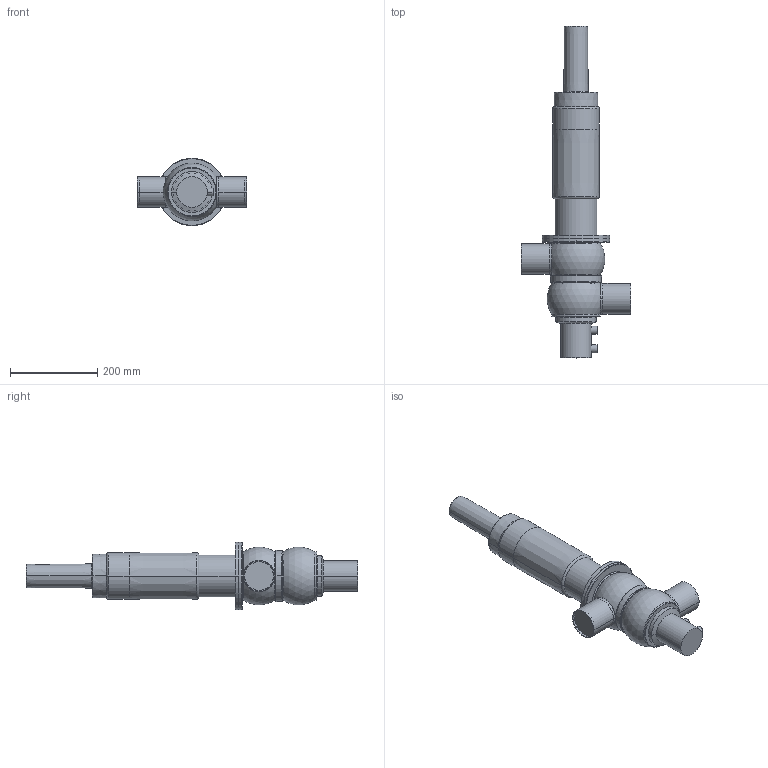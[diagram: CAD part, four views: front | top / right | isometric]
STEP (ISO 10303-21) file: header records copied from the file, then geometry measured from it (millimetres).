
FILE_DESCRIPTION(('Creo Elements/Direct Modeling STEP Export'),'2;1');
FILE_NAME('D41-17_SL-65_VSM.stp','2019-11-26T11:49:03',(''),(''),'Creo Elements/Direct Modeling STEP processor for AP214 (Solid Model)','Creo Elements/Direct Modeling 19.0F 14-Feb-2017 (C) Parametric Technology GmbH','');
FILE_SCHEMA(('AUTOMOTIVE_DESIGN { 1 0 10303 214 1 1 1 1 }'));
Length unit declared in the file: millimetre
Products named in the file (5): D4_Prox._holder.; actuator_D4SL-100_yoke; drain_pipe-62; housing_D41-17-65; D41-17_SL-65_VSM
Assembly tree (4 placements, depth 2):
  D41-17_SL-65_VSM
    housing_D41-17-65
    drain_pipe-62
    actuator_D4SL-100_yoke
    D4_Prox._holder.
Bounding box: 250 x 761.35 x 155 mm (x, y, z)
Volume: 6426306.5 mm3; surface area: 379095.1 mm2
Topology: 4 solids, 4 shells, 114 faces, 242 edges, 148 vertices
Faces by surface type: cylinder 42, torus 32, plane 24, cone 14, sphere 2
Entity records: 4044 total; most frequent: CARTESIAN_POINT 1601, DIRECTION 500, ORIENTED_EDGE 484, EDGE_CURVE 242, AXIS2_PLACEMENT_3D 222, VERTEX_POINT 148, EDGE_LOOP 126, FACE_OUTER_BOUND 114
